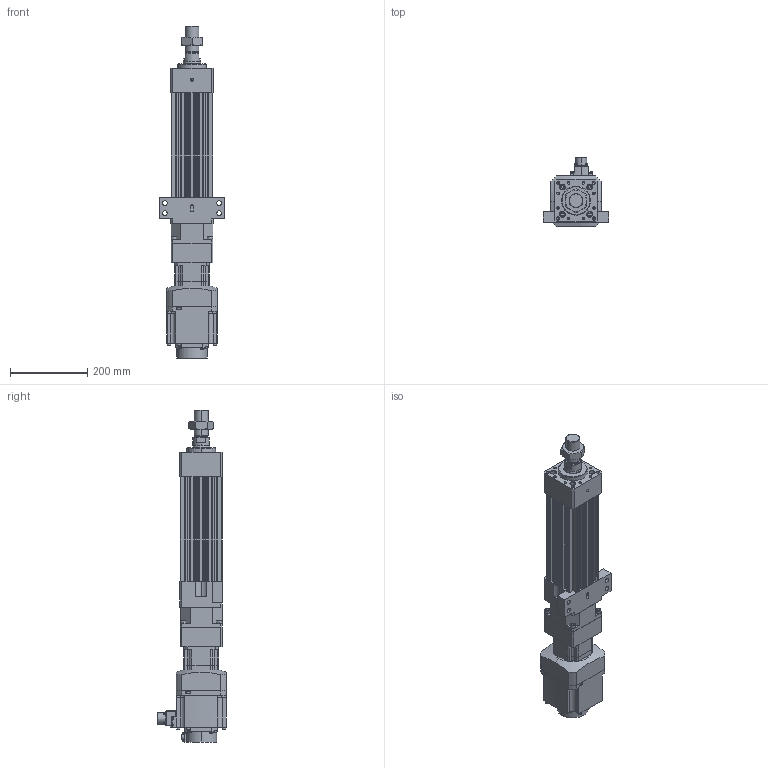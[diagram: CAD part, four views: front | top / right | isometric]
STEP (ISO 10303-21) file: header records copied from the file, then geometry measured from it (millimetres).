
FILE_DESCRIPTION (( 'STEP AP203' ), '1' );
FILE_NAME ('HES110NS(HS)-S100-W010G00-M-FFC.STEP', '2023-01-27T06:17:27', ( 'tms' ), ( '' ), 'SwSTEP 2.0', 'SolidWorks 2013', '' );
FILE_SCHEMA (( 'CONFIG_CONTROL_DESIGN' ));
Length unit declared in the file: millimetre
Products named in the file (8): AB0901; HG-SR102; AB090-003[HG-SR102B]; HES110 ROD M ST100; M36X1.5P; P0401301004; HES110-S100-G090-FFC; HES110NS(HS)-S100-W010G00-M-FFC
Assembly tree (7 placements, depth 3):
  HES110NS(HS)-S100-W010G00-M-FFC
    HES110-S100-G090-FFC
    HES110 ROD M ST100
    M36X1.5P
    AB090-003[HG-SR102B]
      AB0901
      P0401301004
    HG-SR102
Bounding box: 170 x 177.49 x 858.5 mm (x, y, z)
Volume: 5642005.2 mm3; surface area: 718192.4 mm2
Topology: 4 solids, 15 shells, 1217 faces, 3075 edges, 1984 vertices
Faces by surface type: plane 556, cylinder 547, cone 102, bspline 8, torus 4
Entity records: 38420 total; most frequent: CARTESIAN_POINT 7442, DIRECTION 6626, ORIENTED_EDGE 6054, EDGE_CURVE 3037, AXIS2_PLACEMENT_3D 2439, VERTEX_POINT 1984, LINE 1748, VECTOR 1748
